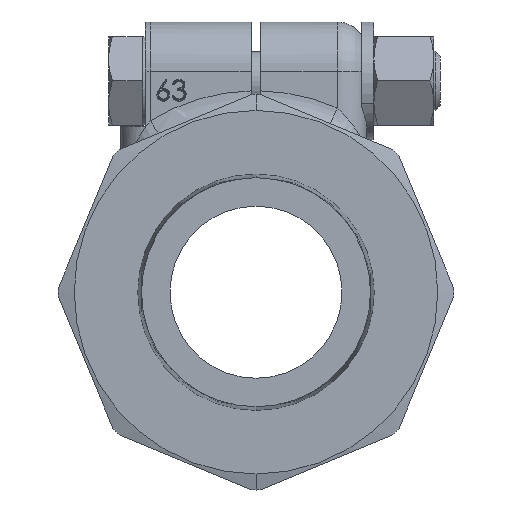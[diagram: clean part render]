
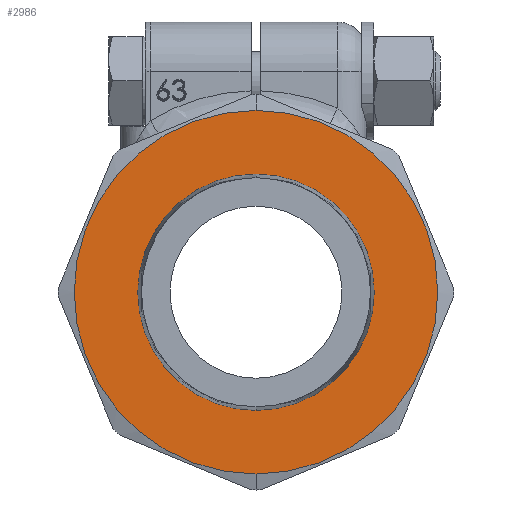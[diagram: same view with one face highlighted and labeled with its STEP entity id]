
A CAD part, front view. The second image highlights one B-rep face of the part: STEP entity #2986.
In plain terms, the highlighted planar face has unit normal (0, -1, 0).
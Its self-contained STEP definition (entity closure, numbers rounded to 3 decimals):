
#75 = AXIS2_PLACEMENT_3D ( 'NONE', #1092, #1093, #1094 ) ;
#80 = CIRCLE ( 'NONE', #75, 24.054 ) ;
#1092 = CARTESIAN_POINT ( 'NONE',  ( 0., 24., 0. ) ) ;
#1093 = DIRECTION ( 'NONE',  ( 0., -1., 0. ) ) ;
#1094 = DIRECTION ( 'NONE',  ( 0., 0., -1. ) ) ;
#1239 = EDGE_CURVE ( 'NONE', #7361, #7408, #80, .T. ) ;
#1265 = AXIS2_PLACEMENT_3D ( 'NONE', #3781, #3782, #3783 ) ;
#2380 = CIRCLE ( 'NONE', #2382, 24.054 ) ;
#2382 = AXIS2_PLACEMENT_3D ( 'NONE', #7563, #7564, #7565 ) ;
#2610 = CIRCLE ( 'NONE', #2615, 37. ) ;
#2615 = AXIS2_PLACEMENT_3D ( 'NONE', #8584, #8585, #8586 ) ;
#2986 = ADVANCED_FACE ( 'NONE', ( #3303, #3304 ), #3305, .T. ) ;
#3292 = CARTESIAN_POINT ( 'NONE',  ( 24.054, 24., 0. ) ) ;
#3303 = FACE_OUTER_BOUND ( 'NONE', #5701, .T. ) ;
#3304 = FACE_BOUND ( 'NONE', #5692, .T. ) ;
#3305 = PLANE ( 'NONE',  #7201 ) ;
#3307 = DIRECTION ( 'NONE',  ( 0., -1., 0. ) ) ;
#3308 = DIRECTION ( 'NONE',  ( 0., 0., -1. ) ) ;
#3732 = CIRCLE ( 'NONE', #1265, 37. ) ;
#3781 = CARTESIAN_POINT ( 'NONE',  ( 0., 24., 0. ) ) ;
#3782 = DIRECTION ( 'NONE',  ( 0., -1., 0. ) ) ;
#3783 = DIRECTION ( 'NONE',  ( 0., 0., -1. ) ) ;
#3897 = CARTESIAN_POINT ( 'NONE',  ( 0., 24., 37. ) ) ;
#3920 = CARTESIAN_POINT ( 'NONE',  ( 0., 24., 24.054 ) ) ;
#3951 = CARTESIAN_POINT ( 'NONE',  ( 0., 24., -37. ) ) ;
#3967 = CARTESIAN_POINT ( 'NONE',  ( 0., 24., -24.054 ) ) ;
#5507 = EDGE_CURVE ( 'NONE', #7408, #7361, #2380, .T. ) ;
#5692 = EDGE_LOOP ( 'NONE', ( #12031, #12032 ) ) ;
#5701 = EDGE_LOOP ( 'NONE', ( #12029, #12030 ) ) ;
#6714 = EDGE_CURVE ( 'NONE', #7338, #7392, #2610, .T. ) ;
#6740 = EDGE_CURVE ( 'NONE', #7392, #7338, #3732, .T. ) ;
#7201 = AXIS2_PLACEMENT_3D ( 'NONE', #3292, #3307, #3308 ) ;
#7338 = VERTEX_POINT ( 'NONE', #3897 ) ;
#7361 = VERTEX_POINT ( 'NONE', #3920 ) ;
#7392 = VERTEX_POINT ( 'NONE', #3951 ) ;
#7408 = VERTEX_POINT ( 'NONE', #3967 ) ;
#7563 = CARTESIAN_POINT ( 'NONE',  ( 0., 24., 0. ) ) ;
#7564 = DIRECTION ( 'NONE',  ( 0., -1., 0. ) ) ;
#7565 = DIRECTION ( 'NONE',  ( 0., 0., -1. ) ) ;
#8584 = CARTESIAN_POINT ( 'NONE',  ( 0., 24., 0. ) ) ;
#8585 = DIRECTION ( 'NONE',  ( 0., -1., 0. ) ) ;
#8586 = DIRECTION ( 'NONE',  ( 0., 0., -1. ) ) ;
#12029 = ORIENTED_EDGE ( 'NONE', *, *, #6714, .T. ) ;
#12030 = ORIENTED_EDGE ( 'NONE', *, *, #6740, .T. ) ;
#12031 = ORIENTED_EDGE ( 'NONE', *, *, #1239, .F. ) ;
#12032 = ORIENTED_EDGE ( 'NONE', *, *, #5507, .F. ) ;
